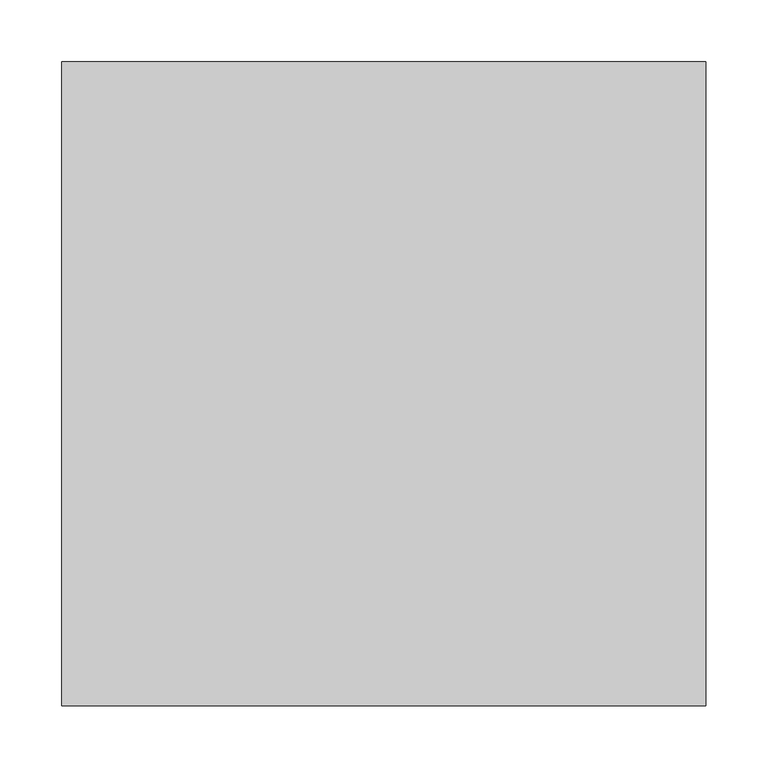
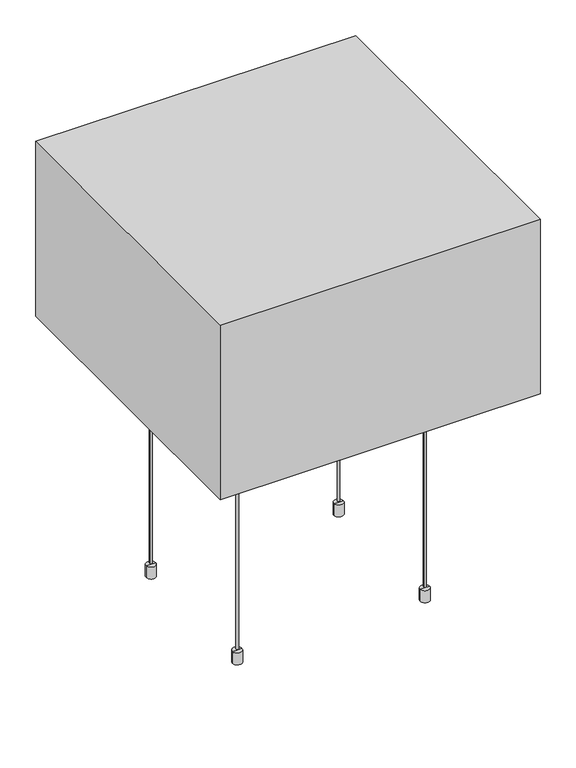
"""IFC4 building model written with IfcOpenShell, lengths in millimetres: light fixture geometry, OWA Corpus LED : Corpus Q2 520x520x300 tunable white."""

from ifc_helpers import new_model, si_unit, point, frame, frame_2d, origin, place, context, project, spatial, polyline, circle_curve, trimmed, segment, composite_curve, outline, extrude, faceted_brep, source, transform, mapped, element, save
from ifc_brep_helpers import plane_surface, cylinder_surface, advanced_brep


def light_fixture_3cedea59(model_context):
    return source(origin(), model_context, "Body", "SolidModel", [
        extrude(outline(composite_curve([segment(trimmed(circle_curve(frame_2d((-121.5, 390.0)), 5.0), [point((-121.5, 385.0))], [point((-126.5, 390.0))], True, "CARTESIAN"), True, "CONTINUOUS"), segment(polyline([(-126.5, 390.0), (-129.5, 390.0)]), True, "CONTINUOUS"), segment(trimmed(circle_curve(frame_2d((-121.5, 390.0)), 8.0), [point((-129.5, 390.0))], [point((-119.5, 382.2540333))], False, "CARTESIAN"), True, "CONTINUOUS"), segment(polyline([(-119.5, 382.2540333), (-119.5, 370.0), (-123.5, 370.0), (-123.5, 385.0), (-121.5, 385.0)]), True, "CONTINUOUS")], self_intersect=False)), frame((-282.5, 0.0, 0.0), z_axis=(1.0, 0.0, 0.0), x_axis=(0.0, 1.0, 0.0)), (0.0, 0.0, 1.0), 3.0),
        extrude(outline(composite_curve([segment(trimmed(circle_curve(frame_2d((396.0, -281.0)), 5.0), [point((396.0, -276.0))], [point((396.0, -286.0))], False, "CARTESIAN"), True, "CONTINUOUS"), segment(trimmed(circle_curve(frame_2d((396.0, -281.0)), 5.0), [point((396.0, -286.0))], [point((396.0, -276.0))], False, "CARTESIAN"), True, "CONTINUOUS")], self_intersect=False), holes=[composite_curve([segment(trimmed(circle_curve(frame_2d((396.0, -281.0)), 3.0085987), [point((396.0, -277.9914013))], [point((396.0, -284.0085987))], True, "CARTESIAN"), True, "CONTINUOUS"), segment(trimmed(circle_curve(frame_2d((396.0, -281.0)), 3.0085987), [point((396.0, -284.0085987))], [point((396.0, -277.9914013))], True, "CARTESIAN"), True, "CONTINUOUS")], self_intersect=False)]), frame((0.0, -123.0, 0.0), z_axis=(0.0, 1.0, 0.0), x_axis=(0.0, 0.0, 1.0)), (0.0, 0.0, 1.0), 3.0),
        advanced_brep(
        [(-281.0, -121.5, 0.0), (-273.2593825, -121.5, 0.0), (-288.7406175, -121.5, 0.0), (-273.2593825, -121.5, 20.0), (-288.7406175, -121.5, 20.0), (-281.0, -121.5, 20.0)],
        [
            (0, 1),
            (1, 2, circle_curve(frame((-281.0, -121.5, 0.0), z_axis=(0.0, 0.0, -1.0), x_axis=(-1.0, 0.0, 0.0)), 7.7406175)),
            (2, 0),
            (2, 1, circle_curve(frame((-281.0, -121.5, 0.0), z_axis=(0.0, 0.0, -1.0), x_axis=(-1.0, 0.0, 0.0)), 7.7406175)),
            (1, 3),
            (3, 4, circle_curve(frame((-281.0, -121.5, 20.0), z_axis=(0.0, 0.0, -1.0), x_axis=(-1.0, 0.0, 0.0)), 7.7406175)),
            (4, 2),
            (4, 3, circle_curve(frame((-281.0, -121.5, 20.0), z_axis=(0.0, 0.0, -1.0), x_axis=(-1.0, 0.0, 0.0)), 7.7406175)),
            (3, 5),
            (5, 4),
        ],
        [
            plane_surface(frame((-281.0, -121.5, 0.0), z_axis=(0.0, 0.0, -1.0), x_axis=(-1.0, 0.0, 0.0))),
            cylinder_surface(frame((-281.0, -121.5, -10.0), z_axis=(0.0, 0.0, -1.0), x_axis=(-1.0, 0.0, 0.0)), 7.7406175),
            plane_surface(frame((-281.0, -121.5, 20.0), z_axis=(0.0, 0.0, 1.0), x_axis=(-1.0, 0.0, 0.0))),
        ],
        [
            (0, [[1, 2, 3]]),
            (0, [[-3, 4, -1]]),
            (1, [[5, 6, 7, -2]]),
            (1, [[-7, 8, -5, -4]]),
            (2, [[9, 10, -6]]),
            (2, [[-10, -9, -8]]),
        ],
    ),
        advanced_brep(
        [(-278.0, -121.5, 401.0), (-278.0, -121.5, 410.0), (-284.0, -121.5, 410.0), (-284.0, -121.5, 401.0), (-281.0, -121.5, 410.0), (-281.0, -121.5, 401.0)],
        [
            (0, 1),
            (1, 2, circle_curve(frame((-281.0, -121.5, 410.0), z_axis=(0.0, 0.0, -1.0), x_axis=(-1.0, 0.0, 0.0)), 3.0)),
            (2, 3),
            (3, 0, circle_curve(frame((-281.0, -121.5, 401.0), z_axis=(0.0, 0.0, 1.0), x_axis=(-1.0, 0.0, 0.0)), 3.0)),
            (2, 1, circle_curve(frame((-281.0, -121.5, 410.0), z_axis=(0.0, 0.0, -1.0), x_axis=(-1.0, 0.0, 0.0)), 3.0)),
            (0, 3, circle_curve(frame((-281.0, -121.5, 401.0), z_axis=(0.0, 0.0, 1.0), x_axis=(-1.0, 0.0, 0.0)), 3.0)),
            (1, 4),
            (4, 2),
            (5, 0),
            (3, 5),
        ],
        [
            cylinder_surface(frame((-281.0, -121.5, 411.8401096), z_axis=(0.0, 0.0, -1.0), x_axis=(-1.0, 0.0, 0.0)), 3.0),
            plane_surface(frame((-281.0, -121.5, 410.0), z_axis=(0.0, 0.0, 1.0), x_axis=(-1.0, 0.0, 0.0))),
            plane_surface(frame((-281.0, -121.5, 401.0), z_axis=(0.0, 0.0, -1.0), x_axis=(-1.0, 0.0, 0.0))),
        ],
        [
            (0, [[1, 2, 3, 4]]),
            (0, [[-3, 5, -1, 6]]),
            (1, [[7, 8, -2]]),
            (1, [[-8, -7, -5]]),
            (2, [[9, -4, 10]]),
            (2, [[-10, -6, -9]]),
        ],
    ),
        extrude(outline(composite_curve([segment(trimmed(circle_curve(frame_2d((-281.0, -121.5)), 2.0), [point((-283.0, -121.5))], [point((-279.0, -121.5))], False, "CARTESIAN"), True, "CONTINUOUS"), segment(trimmed(circle_curve(frame_2d((-281.0, -121.5)), 2.0), [point((-279.0, -121.5))], [point((-283.0, -121.5))], False, "CARTESIAN"), True, "CONTINUOUS")], self_intersect=False)), frame((0.0, 0.0, 22.546183), z_axis=(0.0, 0.0, 1.0), x_axis=(1.0, 0.0, 0.0)), (0.0, 0.0, 1.0), 347.453817),
        extrude(outline(composite_curve([segment(trimmed(circle_curve(frame_2d((-121.5, 390.0)), 5.0), [point((-121.5, 385.0))], [point((-126.5, 390.0))], True, "CARTESIAN"), True, "CONTINUOUS"), segment(polyline([(-126.5, 390.0), (-129.5, 390.0)]), True, "CONTINUOUS"), segment(trimmed(circle_curve(frame_2d((-121.5, 390.0)), 8.0), [point((-129.5, 390.0))], [point((-119.5, 382.2540333))], False, "CARTESIAN"), True, "CONTINUOUS"), segment(polyline([(-119.5, 382.2540333), (-119.5, 370.0), (-123.5, 370.0), (-123.5, 385.0), (-121.5, 385.0)]), True, "CONTINUOUS")], self_intersect=False)), frame((-587.5, 0.0, 0.0), z_axis=(1.0, 0.0, 0.0), x_axis=(0.0, 1.0, 0.0)), (0.0, 0.0, 1.0), 3.0),
        extrude(outline(composite_curve([segment(trimmed(circle_curve(frame_2d((396.0, -586.0)), 5.0), [point((396.0, -591.0))], [point((396.0, -581.0))], False, "CARTESIAN"), True, "CONTINUOUS"), segment(trimmed(circle_curve(frame_2d((396.0, -586.0)), 5.0), [point((396.0, -581.0))], [point((396.0, -591.0))], False, "CARTESIAN"), True, "CONTINUOUS")], self_intersect=False), holes=[composite_curve([segment(trimmed(circle_curve(frame_2d((396.0, -586.0)), 3.0085987), [point((396.0, -589.0085987))], [point((396.0, -582.9914013))], True, "CARTESIAN"), True, "CONTINUOUS"), segment(trimmed(circle_curve(frame_2d((396.0, -586.0)), 3.0085987), [point((396.0, -582.9914013))], [point((396.0, -589.0085987))], True, "CARTESIAN"), True, "CONTINUOUS")], self_intersect=False)]), frame((0.0, -123.0, 0.0), z_axis=(0.0, 1.0, 0.0), x_axis=(0.0, 0.0, 1.0)), (0.0, 0.0, 1.0), 3.0),
        advanced_brep(
        [(-586.0, -121.5, 0.0), (-578.2593825, -121.5, 0.0), (-593.7406175, -121.5, 0.0), (-578.2593825, -121.5, 20.0), (-593.7406175, -121.5, 20.0), (-586.0, -121.5, 20.0)],
        [
            (0, 1),
            (1, 2, circle_curve(frame((-586.0, -121.5, 0.0), z_axis=(0.0, 0.0, -1.0), x_axis=(1.0, 0.0, 0.0)), 7.7406175)),
            (2, 0),
            (2, 1, circle_curve(frame((-586.0, -121.5, 0.0), z_axis=(0.0, 0.0, -1.0), x_axis=(1.0, 0.0, 0.0)), 7.7406175)),
            (1, 3),
            (3, 4, circle_curve(frame((-586.0, -121.5, 20.0), z_axis=(0.0, 0.0, -1.0), x_axis=(1.0, 0.0, 0.0)), 7.7406175)),
            (4, 2),
            (4, 3, circle_curve(frame((-586.0, -121.5, 20.0), z_axis=(0.0, 0.0, -1.0), x_axis=(1.0, 0.0, 0.0)), 7.7406175)),
            (3, 5),
            (5, 4),
        ],
        [
            plane_surface(frame((-586.0, -121.5, 0.0), z_axis=(0.0, 0.0, -1.0), x_axis=(1.0, 0.0, 0.0))),
            cylinder_surface(frame((-586.0, -121.5, -10.0), z_axis=(0.0, 0.0, -1.0), x_axis=(1.0, 0.0, 0.0)), 7.7406175),
            plane_surface(frame((-586.0, -121.5, 20.0), z_axis=(0.0, 0.0, 1.0), x_axis=(1.0, 0.0, 0.0))),
        ],
        [
            (0, [[1, 2, 3]]),
            (0, [[-3, 4, -1]]),
            (1, [[-2, 5, 6, 7]]),
            (1, [[-4, -7, 8, -5]]),
            (2, [[-6, 9, 10]]),
            (2, [[-8, -10, -9]]),
        ],
    ),
        advanced_brep(
        [(-589.0, -121.5, 401.0), (-583.0, -121.5, 401.0), (-583.0, -121.5, 410.0), (-589.0, -121.5, 410.0), (-586.0, -121.5, 410.0), (-586.0, -121.5, 401.0)],
        [
            (0, 1, circle_curve(frame((-586.0, -121.5, 401.0), z_axis=(0.0, 0.0, 1.0), x_axis=(1.0, 0.0, 0.0)), 3.0)),
            (1, 2),
            (2, 3, circle_curve(frame((-586.0, -121.5, 410.0), z_axis=(0.0, 0.0, -1.0), x_axis=(1.0, 0.0, 0.0)), 3.0)),
            (3, 0),
            (1, 0, circle_curve(frame((-586.0, -121.5, 401.0), z_axis=(0.0, 0.0, 1.0), x_axis=(1.0, 0.0, 0.0)), 3.0)),
            (3, 2, circle_curve(frame((-586.0, -121.5, 410.0), z_axis=(0.0, 0.0, -1.0), x_axis=(1.0, 0.0, 0.0)), 3.0)),
            (2, 4),
            (4, 3),
            (5, 1),
            (0, 5),
        ],
        [
            cylinder_surface(frame((-586.0, -121.5, 411.8401096), z_axis=(0.0, 0.0, -1.0), x_axis=(1.0, 0.0, 0.0)), 3.0),
            plane_surface(frame((-586.0, -121.5, 410.0), z_axis=(0.0, 0.0, 1.0), x_axis=(1.0, 0.0, 0.0))),
            plane_surface(frame((-586.0, -121.5, 401.0), z_axis=(0.0, 0.0, -1.0), x_axis=(1.0, 0.0, 0.0))),
        ],
        [
            (0, [[1, 2, 3, 4]]),
            (0, [[5, -4, 6, -2]]),
            (1, [[-3, 7, 8]]),
            (1, [[-6, -8, -7]]),
            (2, [[9, -1, 10]]),
            (2, [[-10, -5, -9]]),
        ],
    ),
        extrude(outline(composite_curve([segment(trimmed(circle_curve(frame_2d((-586.0, -121.5)), 2.0), [point((-584.0, -121.5))], [point((-588.0, -121.5))], False, "CARTESIAN"), True, "CONTINUOUS"), segment(trimmed(circle_curve(frame_2d((-586.0, -121.5)), 2.0), [point((-588.0, -121.5))], [point((-584.0, -121.5))], False, "CARTESIAN"), True, "CONTINUOUS")], self_intersect=False)), frame((0.0, 0.0, 22.546183), z_axis=(0.0, 0.0, 1.0), x_axis=(1.0, 0.0, 0.0)), (0.0, 0.0, 1.0), 347.453817),
        extrude(outline(composite_curve([segment(polyline([(121.5, 385.0), (123.5, 385.0), (123.5, 370.0), (119.5, 370.0), (119.5, 382.2540333)]), True, "CONTINUOUS"), segment(trimmed(circle_curve(frame_2d((121.5, 390.0)), 8.0), [point((119.5, 382.2540333))], [point((129.5, 390.0))], False, "CARTESIAN"), True, "CONTINUOUS"), segment(polyline([(129.5, 390.0), (126.5, 390.0)]), True, "CONTINUOUS"), segment(trimmed(circle_curve(frame_2d((121.5, 390.0)), 5.0), [point((126.5, 390.0))], [point((121.5, 385.0))], True, "CARTESIAN"), True, "CONTINUOUS")], self_intersect=False)), frame((-587.5, 0.0, 0.0), z_axis=(1.0, 0.0, 0.0), x_axis=(0.0, 1.0, 0.0)), (0.0, 0.0, 1.0), 3.0),
        extrude(outline(composite_curve([segment(trimmed(circle_curve(frame_2d((396.0, -586.0)), 5.0), [point((396.0, -591.0))], [point((396.0, -581.0))], False, "CARTESIAN"), True, "CONTINUOUS"), segment(trimmed(circle_curve(frame_2d((396.0, -586.0)), 5.0), [point((396.0, -581.0))], [point((396.0, -591.0))], False, "CARTESIAN"), True, "CONTINUOUS")], self_intersect=False), holes=[composite_curve([segment(trimmed(circle_curve(frame_2d((396.0, -586.0)), 3.0085987), [point((396.0, -589.0085987))], [point((396.0, -582.9914013))], True, "CARTESIAN"), True, "CONTINUOUS"), segment(trimmed(circle_curve(frame_2d((396.0, -586.0)), 3.0085987), [point((396.0, -582.9914013))], [point((396.0, -589.0085987))], True, "CARTESIAN"), True, "CONTINUOUS")], self_intersect=False)]), frame((0.0, 120.0, 0.0), z_axis=(0.0, 1.0, 0.0), x_axis=(0.0, 0.0, 1.0)), (0.0, 0.0, 1.0), 3.0),
        advanced_brep(
        [(-586.0, 121.5, 0.0), (-593.7406175, 121.5, 0.0), (-578.2593825, 121.5, 0.0), (-593.7406175, 121.5, 20.0), (-578.2593825, 121.5, 20.0), (-586.0, 121.5, 20.0)],
        [
            (0, 1),
            (1, 2, circle_curve(frame((-586.0, 121.5, 0.0), z_axis=(0.0, 0.0, -1.0), x_axis=(1.0, 0.0, 0.0)), 7.7406175)),
            (2, 0),
            (2, 1, circle_curve(frame((-586.0, 121.5, 0.0), z_axis=(0.0, 0.0, -1.0), x_axis=(1.0, 0.0, 0.0)), 7.7406175)),
            (1, 3),
            (3, 4, circle_curve(frame((-586.0, 121.5, 20.0), z_axis=(0.0, 0.0, -1.0), x_axis=(1.0, 0.0, 0.0)), 7.7406175)),
            (4, 2),
            (4, 3, circle_curve(frame((-586.0, 121.5, 20.0), z_axis=(0.0, 0.0, -1.0), x_axis=(1.0, 0.0, 0.0)), 7.7406175)),
            (3, 5),
            (5, 4),
        ],
        [
            plane_surface(frame((-586.0, 121.5, 0.0), z_axis=(0.0, 0.0, -1.0), x_axis=(1.0, 0.0, 0.0))),
            cylinder_surface(frame((-586.0, 121.5, -10.0), z_axis=(0.0, 0.0, -1.0), x_axis=(1.0, 0.0, 0.0)), 7.7406175),
            plane_surface(frame((-586.0, 121.5, 20.0), z_axis=(0.0, 0.0, 1.0), x_axis=(1.0, 0.0, 0.0))),
        ],
        [
            (0, [[1, 2, 3]]),
            (0, [[-3, 4, -1]]),
            (1, [[5, 6, 7, -2]]),
            (1, [[-7, 8, -5, -4]]),
            (2, [[9, 10, -6]]),
            (2, [[-10, -9, -8]]),
        ],
    ),
        advanced_brep(
        [(-589.0, 121.5, 401.0), (-589.0, 121.5, 410.0), (-583.0, 121.5, 410.0), (-583.0, 121.5, 401.0), (-586.0, 121.5, 410.0), (-586.0, 121.5, 401.0)],
        [
            (0, 1),
            (1, 2, circle_curve(frame((-586.0, 121.5, 410.0), z_axis=(0.0, 0.0, -1.0), x_axis=(1.0, 0.0, 0.0)), 3.0)),
            (2, 3),
            (3, 0, circle_curve(frame((-586.0, 121.5, 401.0), z_axis=(0.0, 0.0, 1.0), x_axis=(1.0, 0.0, 0.0)), 3.0)),
            (2, 1, circle_curve(frame((-586.0, 121.5, 410.0), z_axis=(0.0, 0.0, -1.0), x_axis=(1.0, 0.0, 0.0)), 3.0)),
            (0, 3, circle_curve(frame((-586.0, 121.5, 401.0), z_axis=(0.0, 0.0, 1.0), x_axis=(1.0, 0.0, 0.0)), 3.0)),
            (1, 4),
            (4, 2),
            (5, 0),
            (3, 5),
        ],
        [
            cylinder_surface(frame((-586.0, 121.5, 411.8401096), z_axis=(0.0, 0.0, -1.0), x_axis=(1.0, 0.0, 0.0)), 3.0),
            plane_surface(frame((-586.0, 121.5, 410.0), z_axis=(0.0, 0.0, 1.0), x_axis=(1.0, 0.0, 0.0))),
            plane_surface(frame((-586.0, 121.5, 401.0), z_axis=(0.0, 0.0, -1.0), x_axis=(1.0, 0.0, 0.0))),
        ],
        [
            (0, [[1, 2, 3, 4]]),
            (0, [[-3, 5, -1, 6]]),
            (1, [[7, 8, -2]]),
            (1, [[-8, -7, -5]]),
            (2, [[9, -4, 10]]),
            (2, [[-10, -6, -9]]),
        ],
    ),
        extrude(outline(composite_curve([segment(trimmed(circle_curve(frame_2d((-586.0, 121.5)), 2.0), [point((-584.0, 121.5))], [point((-588.0, 121.5))], False, "CARTESIAN"), True, "CONTINUOUS"), segment(trimmed(circle_curve(frame_2d((-586.0, 121.5)), 2.0), [point((-588.0, 121.5))], [point((-584.0, 121.5))], False, "CARTESIAN"), True, "CONTINUOUS")], self_intersect=False)), frame((0.0, 0.0, 22.546183), z_axis=(0.0, 0.0, 1.0), x_axis=(1.0, 0.0, 0.0)), (0.0, 0.0, 1.0), 347.453817),
        extrude(outline(composite_curve([segment(polyline([(121.5, 385.0), (123.5, 385.0), (123.5, 370.0), (119.5, 370.0), (119.5, 382.2540333)]), True, "CONTINUOUS"), segment(trimmed(circle_curve(frame_2d((121.5, 390.0)), 8.0), [point((119.5, 382.2540333))], [point((129.5, 390.0))], False, "CARTESIAN"), True, "CONTINUOUS"), segment(polyline([(129.5, 390.0), (126.5, 390.0)]), True, "CONTINUOUS"), segment(trimmed(circle_curve(frame_2d((121.5, 390.0)), 5.0), [point((126.5, 390.0))], [point((121.5, 385.0))], True, "CARTESIAN"), True, "CONTINUOUS")], self_intersect=False)), frame((-282.5, 0.0, 0.0), z_axis=(1.0, 0.0, 0.0), x_axis=(0.0, 1.0, 0.0)), (0.0, 0.0, 1.0), 3.0),
        extrude(outline(composite_curve([segment(trimmed(circle_curve(frame_2d((396.0, -281.0)), 5.0), [point((396.0, -276.0))], [point((396.0, -286.0))], False, "CARTESIAN"), True, "CONTINUOUS"), segment(trimmed(circle_curve(frame_2d((396.0, -281.0)), 5.0), [point((396.0, -286.0))], [point((396.0, -276.0))], False, "CARTESIAN"), True, "CONTINUOUS")], self_intersect=False), holes=[composite_curve([segment(trimmed(circle_curve(frame_2d((396.0, -281.0)), 3.0085987), [point((396.0, -277.9914013))], [point((396.0, -284.0085987))], True, "CARTESIAN"), True, "CONTINUOUS"), segment(trimmed(circle_curve(frame_2d((396.0, -281.0)), 3.0085987), [point((396.0, -284.0085987))], [point((396.0, -277.9914013))], True, "CARTESIAN"), True, "CONTINUOUS")], self_intersect=False)]), frame((0.0, 120.0, 0.0), z_axis=(0.0, 1.0, 0.0), x_axis=(0.0, 0.0, 1.0)), (0.0, 0.0, 1.0), 3.0),
        advanced_brep(
        [(-281.0, 121.5, 0.0), (-288.7406175, 121.5, 0.0), (-273.2593825, 121.5, 0.0), (-288.7406175, 121.5, 20.0), (-273.2593825, 121.5, 20.0), (-281.0, 121.5, 20.0)],
        [
            (0, 1),
            (1, 2, circle_curve(frame((-281.0, 121.5, 0.0), z_axis=(0.0, 0.0, -1.0), x_axis=(-1.0, 0.0, 0.0)), 7.7406175)),
            (2, 0),
            (2, 1, circle_curve(frame((-281.0, 121.5, 0.0), z_axis=(0.0, 0.0, -1.0), x_axis=(-1.0, 0.0, 0.0)), 7.7406175)),
            (1, 3),
            (3, 4, circle_curve(frame((-281.0, 121.5, 20.0), z_axis=(0.0, 0.0, -1.0), x_axis=(-1.0, 0.0, 0.0)), 7.7406175)),
            (4, 2),
            (4, 3, circle_curve(frame((-281.0, 121.5, 20.0), z_axis=(0.0, 0.0, -1.0), x_axis=(-1.0, 0.0, 0.0)), 7.7406175)),
            (3, 5),
            (5, 4),
        ],
        [
            plane_surface(frame((-281.0, 121.5, 0.0), z_axis=(0.0, 0.0, -1.0), x_axis=(-1.0, 0.0, 0.0))),
            cylinder_surface(frame((-281.0, 121.5, -10.0), z_axis=(0.0, 0.0, -1.0), x_axis=(-1.0, 0.0, 0.0)), 7.7406175),
            plane_surface(frame((-281.0, 121.5, 20.0), z_axis=(0.0, 0.0, 1.0), x_axis=(-1.0, 0.0, 0.0))),
        ],
        [
            (0, [[1, 2, 3]]),
            (0, [[-3, 4, -1]]),
            (1, [[-2, 5, 6, 7]]),
            (1, [[-4, -7, 8, -5]]),
            (2, [[-6, 9, 10]]),
            (2, [[-8, -10, -9]]),
        ],
    ),
        advanced_brep(
        [(-278.0, 121.5, 401.0), (-284.0, 121.5, 401.0), (-284.0, 121.5, 410.0), (-278.0, 121.5, 410.0), (-281.0, 121.5, 410.0), (-281.0, 121.5, 401.0)],
        [
            (0, 1, circle_curve(frame((-281.0, 121.5, 401.0), z_axis=(0.0, 0.0, 1.0), x_axis=(-1.0, 0.0, 0.0)), 3.0)),
            (1, 2),
            (2, 3, circle_curve(frame((-281.0, 121.5, 410.0), z_axis=(0.0, 0.0, -1.0), x_axis=(-1.0, 0.0, 0.0)), 3.0)),
            (3, 0),
            (1, 0, circle_curve(frame((-281.0, 121.5, 401.0), z_axis=(0.0, 0.0, 1.0), x_axis=(-1.0, 0.0, 0.0)), 3.0)),
            (3, 2, circle_curve(frame((-281.0, 121.5, 410.0), z_axis=(0.0, 0.0, -1.0), x_axis=(-1.0, 0.0, 0.0)), 3.0)),
            (2, 4),
            (4, 3),
            (5, 1),
            (0, 5),
        ],
        [
            cylinder_surface(frame((-281.0, 121.5, 411.8401096), z_axis=(0.0, 0.0, -1.0), x_axis=(-1.0, 0.0, 0.0)), 3.0),
            plane_surface(frame((-281.0, 121.5, 410.0), z_axis=(0.0, 0.0, 1.0), x_axis=(-1.0, 0.0, 0.0))),
            plane_surface(frame((-281.0, 121.5, 401.0), z_axis=(0.0, 0.0, -1.0), x_axis=(-1.0, 0.0, 0.0))),
        ],
        [
            (0, [[1, 2, 3, 4]]),
            (0, [[5, -4, 6, -2]]),
            (1, [[-3, 7, 8]]),
            (1, [[-6, -8, -7]]),
            (2, [[9, -1, 10]]),
            (2, [[-10, -5, -9]]),
        ],
    ),
        extrude(outline(composite_curve([segment(trimmed(circle_curve(frame_2d((-281.0, 121.5)), 2.0), [point((-283.0, 121.5))], [point((-279.0, 121.5))], False, "CARTESIAN"), True, "CONTINUOUS"), segment(trimmed(circle_curve(frame_2d((-281.0, 121.5)), 2.0), [point((-279.0, 121.5))], [point((-283.0, 121.5))], False, "CARTESIAN"), True, "CONTINUOUS")], self_intersect=False)), frame((0.0, 0.0, 22.546183), z_axis=(0.0, 0.0, 1.0), x_axis=(1.0, 0.0, 0.0)), (0.0, 0.0, 1.0), 347.453817),
        extrude(outline(polyline([(-301.0, 195.0), (-301.0, -195.0), (-566.0, -195.0), (-566.0, 195.0), (-301.0, 195.0)])), frame((0.0, 0.0, 381.2), z_axis=(0.0, 0.0, 1.0), x_axis=(1.0, 0.0, 0.0)), (0.0, 0.0, 1.0), 28.8),
        faceted_brep([(-173.5, 260.0, 700.0), (-693.5, 260.0, 700.0), (-693.5, -260.0, 700.0), (-173.5, -260.0, 700.0), (-213.5, 220.0, 410.0), (-213.5, -220.0, 410.0), (-653.5, -220.0, 410.0), (-653.5, 220.0, 410.0), (-173.5, 260.0, 400.0), (-173.5, -260.0, 400.0), (-693.5, -260.0, 400.0), (-693.5, 260.0, 400.0), (-213.5, 220.0, 400.0), (-653.5, 220.0, 400.0), (-653.5, -220.0, 400.0), (-213.5, -220.0, 400.0)], [[[0, 1, 2, 3]], [[4, 5, 6, 7]], [[8, 9, 10, 11], [12, 13, 14, 15]], [[1, 0, 8, 11]], [[2, 1, 11, 10]], [[3, 2, 10, 9]], [[0, 3, 9, 8]], [[12, 15, 5, 4]], [[15, 14, 6, 5]], [[14, 13, 7, 6]], [[13, 12, 4, 7]]]),
    ])


if __name__ == "__main__":
    model = new_model("IFC4")
    model_context = context("Model", 3, world=origin())
    ifc_project = project(units=[si_unit("LENGTHUNIT", "METRE", prefix="MILLI")], contexts=[model_context])
    site = spatial("IfcSite", under=ifc_project)
    building = spatial("IfcBuilding", under=site)
    placement = place(None, origin())
    light_fixture_shape = light_fixture_3cedea59(model_context)
    element("IfcLightFixture", 1, ObjectType="OWA Corpus LED : Corpus Q2 520x520x300 tunable white", at=placement, inside=building, context=model_context, shape_type="MappedRepresentation", body=[
        mapped(light_fixture_shape, transform((0.0, 0.0, 0.0), x_axis=(1.0, 0.0, 0.0), y_axis=(0.0, 1.0, 0.0), z_axis=(0.0, 0.0, 1.0))),
    ])
    save(model, "model.ifc")
